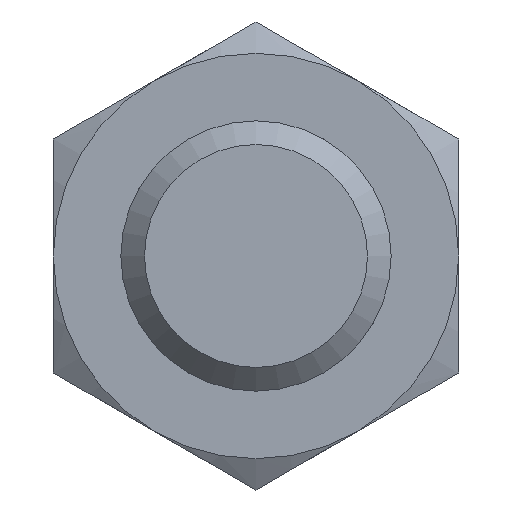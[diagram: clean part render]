
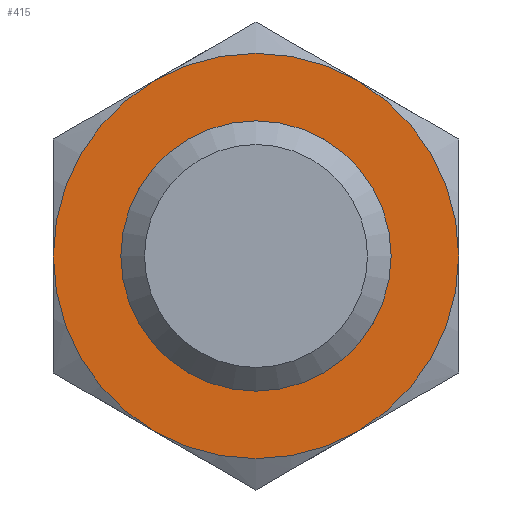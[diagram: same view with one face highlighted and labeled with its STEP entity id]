
A CAD part, left-side view. The second image highlights one B-rep face of the part: STEP entity #415.
In plain terms, the highlighted planar face has unit normal (-1, 0, 0).
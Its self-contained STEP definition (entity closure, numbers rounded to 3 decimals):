
#58=PLANE($,#468);
#70=FACE_BOUND($,#138,.T.);
#71=FACE_BOUND($,#139,.T.);
#138=EDGE_LOOP($,(#355));
#139=EDGE_LOOP($,(#356,#357,#358,#359,#360,#361));
#157=CIRCLE($,#435,3.15);
#164=CIRCLE($,#449,6.);
#165=CIRCLE($,#451,6.);
#166=CIRCLE($,#453,6.);
#167=CIRCLE($,#455,6.);
#168=CIRCLE($,#457,6.);
#169=CIRCLE($,#459,6.);
#181=VERTEX_POINT($,#616);
#195=VERTEX_POINT($,#680);
#196=VERTEX_POINT($,#684);
#198=VERTEX_POINT($,#691);
#200=VERTEX_POINT($,#701);
#202=VERTEX_POINT($,#714);
#204=VERTEX_POINT($,#724);
#217=EDGE_CURVE($,#181,#181,#157,.T.);
#238=EDGE_CURVE($,#195,#196,#164,.T.);
#241=EDGE_CURVE($,#198,#195,#165,.T.);
#244=EDGE_CURVE($,#200,#198,#166,.T.);
#246=EDGE_CURVE($,#202,#200,#167,.T.);
#249=EDGE_CURVE($,#204,#202,#168,.T.);
#252=EDGE_CURVE($,#196,#204,#169,.T.);
#355=ORIENTED_EDGE($,*,*,#217,.T.);
#356=ORIENTED_EDGE($,*,*,#252,.T.);
#357=ORIENTED_EDGE($,*,*,#249,.T.);
#358=ORIENTED_EDGE($,*,*,#246,.T.);
#359=ORIENTED_EDGE($,*,*,#244,.T.);
#360=ORIENTED_EDGE($,*,*,#241,.T.);
#361=ORIENTED_EDGE($,*,*,#238,.T.);
#415=ADVANCED_FACE($,(#70,#71),#58,.F.);
#435=AXIS2_PLACEMENT_3D($,#617,#502,#503);
#449=AXIS2_PLACEMENT_3D($,#688,#530,#531);
#451=AXIS2_PLACEMENT_3D($,#698,#534,#535);
#453=AXIS2_PLACEMENT_3D($,#708,#538,#539);
#455=AXIS2_PLACEMENT_3D($,#715,#542,#543);
#457=AXIS2_PLACEMENT_3D($,#725,#546,#547);
#459=AXIS2_PLACEMENT_3D($,#734,#550,#551);
#468=AXIS2_PLACEMENT_3D($,#753,#574,#575);
#502=DIRECTION('center_axis',(1.,0.,0.));
#503=DIRECTION('ref_axis',(0.,0.,-1.));
#530=DIRECTION('center_axis',(-1.,0.,0.));
#531=DIRECTION('ref_axis',(0.,0.,1.));
#534=DIRECTION('center_axis',(-1.,0.,0.));
#535=DIRECTION('ref_axis',(0.,0.,1.));
#538=DIRECTION('center_axis',(-1.,0.,0.));
#539=DIRECTION('ref_axis',(0.,0.,1.));
#542=DIRECTION('center_axis',(-1.,0.,0.));
#543=DIRECTION('ref_axis',(0.,0.,1.));
#546=DIRECTION('center_axis',(-1.,0.,0.));
#547=DIRECTION('ref_axis',(0.,0.,1.));
#550=DIRECTION('center_axis',(-1.,0.,0.));
#551=DIRECTION('ref_axis',(0.,0.,1.));
#574=DIRECTION('center_axis',(1.,0.,0.));
#575=DIRECTION('ref_axis',(0.,0.,-1.));
#616=CARTESIAN_POINT('',(-3.,0.,3.15));
#617=CARTESIAN_POINT('Origin',(-3.,0.,0.));
#680=CARTESIAN_POINT('',(-3.,3.,-5.196));
#684=CARTESIAN_POINT('',(-3.,-3.,-5.196));
#688=CARTESIAN_POINT('Origin',(-3.,0.,0.));
#691=CARTESIAN_POINT('',(-3.,6.,0.));
#698=CARTESIAN_POINT('Origin',(-3.,0.,0.));
#701=CARTESIAN_POINT('',(-3.,3.,5.196));
#708=CARTESIAN_POINT('Origin',(-3.,0.,0.));
#714=CARTESIAN_POINT('',(-3.,-3.,5.196));
#715=CARTESIAN_POINT('Origin',(-3.,0.,0.));
#724=CARTESIAN_POINT('',(-3.,-6.,0.));
#725=CARTESIAN_POINT('Origin',(-3.,0.,0.));
#734=CARTESIAN_POINT('Origin',(-3.,0.,0.));
#753=CARTESIAN_POINT('Origin',(-3.,0.,0.));
